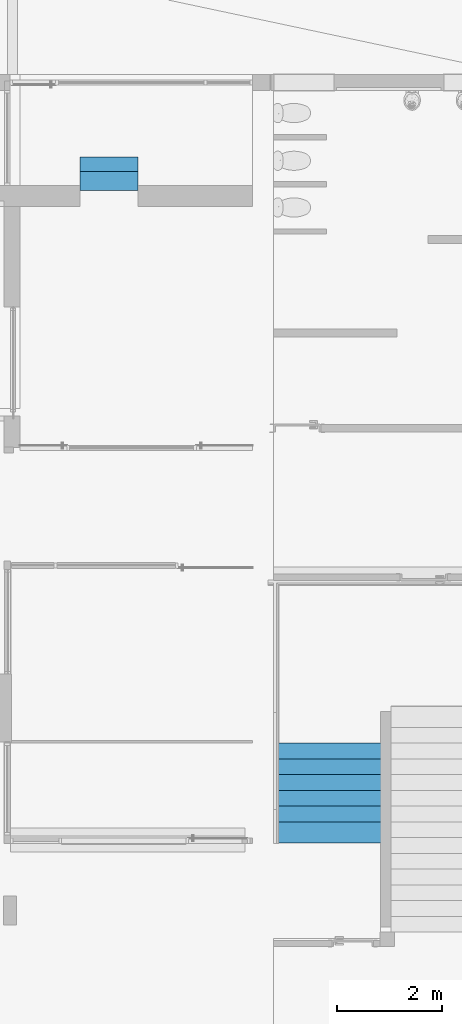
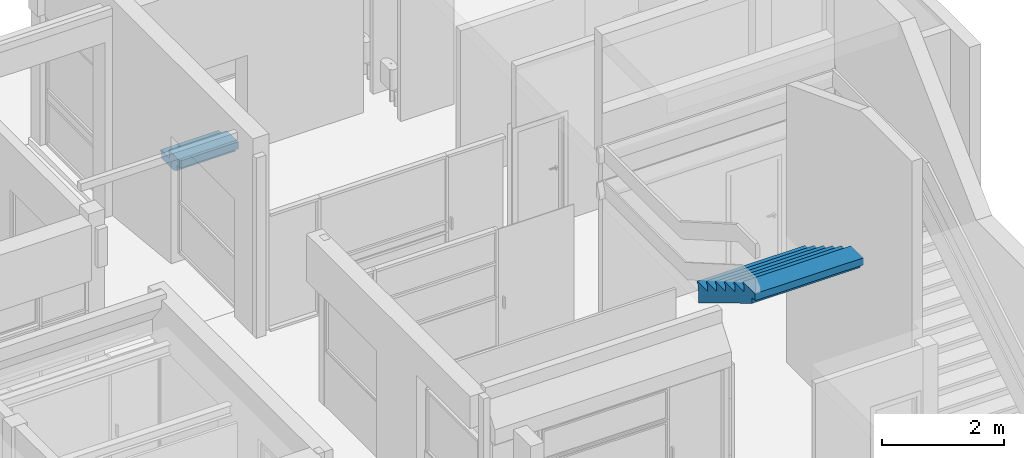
# One storey, part 100 of 117: 2 stair flights, 2 elements without a shape of their own.
"""IFC4 building model written with IfcOpenShell, lengths in metres."""

from ifc_helpers import new_model, entity, si_unit, converted_unit, derived_unit, direction, frame, origin, place, context, subcontext, project, spatial, polygons, material, constituent, constituent_set, type_object, element, aggregate, save


model = new_model("IFC4")

# Units and contexts
model_context = context("Model", 3, precision=1e-05, world=origin(), true_north=direction((6.123031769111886e-17, 1.0)))
body_context = subcontext(model_context, "Body", "Model", "MODEL_VIEW")
ifc_project = project(units=[si_unit("LENGTHUNIT", "METRE"), si_unit("AREAUNIT", "SQUARE_METRE"), si_unit("VOLUMEUNIT", "CUBIC_METRE"), converted_unit("PLANEANGLEUNIT", "DEGREE", entity("IfcRatioMeasure", 0.017453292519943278), si_unit("PLANEANGLEUNIT", "RADIAN"), dimensions=[0, 0, 0, 0, 0, 0, 0]), si_unit("MASSUNIT", "GRAM", prefix="KILO"), derived_unit("MASSDENSITYUNIT", [(si_unit("MASSUNIT", "GRAM", prefix="KILO"), 1), (si_unit("LENGTHUNIT", "METRE"), -3)]), derived_unit("MOMENTOFINERTIAUNIT", [(si_unit("LENGTHUNIT", "METRE"), 4)]), si_unit("TIMEUNIT", "SECOND"), si_unit("FREQUENCYUNIT", "HERTZ"), si_unit("THERMODYNAMICTEMPERATUREUNIT", "DEGREE_CELSIUS"), derived_unit("THERMALTRANSMITTANCEUNIT", [(si_unit("MASSUNIT", "GRAM", prefix="KILO"), 1), (si_unit("THERMODYNAMICTEMPERATUREUNIT", "KELVIN"), -1), (si_unit("TIMEUNIT", "SECOND"), -3)]), derived_unit("VOLUMETRICFLOWRATEUNIT", [(si_unit("LENGTHUNIT", "METRE"), 3), (si_unit("TIMEUNIT", "SECOND"), -1)]), derived_unit("MASSFLOWRATEUNIT", [(si_unit("MASSUNIT", "GRAM", prefix="KILO"), 1), (si_unit("TIMEUNIT", "SECOND"), -1)]), derived_unit("ROTATIONALFREQUENCYUNIT", [(si_unit("TIMEUNIT", "SECOND"), -1)]), si_unit("ELECTRICCURRENTUNIT", "AMPERE"), si_unit("ELECTRICVOLTAGEUNIT", "VOLT"), si_unit("POWERUNIT", "WATT"), si_unit("FORCEUNIT", "NEWTON", prefix="KILO"), si_unit("ILLUMINANCEUNIT", "LUX"), si_unit("LUMINOUSFLUXUNIT", "LUMEN"), si_unit("LUMINOUSINTENSITYUNIT", "CANDELA"), derived_unit("USERDEFINED", [(si_unit("MASSUNIT", "GRAM", prefix="KILO"), -1), (si_unit("LENGTHUNIT", "METRE"), -2), (si_unit("TIMEUNIT", "SECOND"), 3), (si_unit("LUMINOUSFLUXUNIT", "LUMEN"), 1)]), derived_unit("SOUNDPOWERUNIT", [(si_unit("MASSUNIT", "GRAM", prefix="KILO"), 1), (si_unit("LENGTHUNIT", "METRE"), 2), (si_unit("TIMEUNIT", "SECOND"), -3)]), derived_unit("SOUNDPRESSUREUNIT", [(si_unit("MASSUNIT", "GRAM", prefix="KILO"), 1), (si_unit("LENGTHUNIT", "METRE"), -1), (si_unit("TIMEUNIT", "SECOND"), -2)]), derived_unit("LINEARVELOCITYUNIT", [(si_unit("LENGTHUNIT", "METRE"), 1), (si_unit("TIMEUNIT", "SECOND"), -1)]), si_unit("PRESSUREUNIT", "PASCAL"), derived_unit("USERDEFINED", [(si_unit("LENGTHUNIT", "METRE"), -2), (si_unit("MASSUNIT", "GRAM", prefix="KILO"), 1), (si_unit("TIMEUNIT", "SECOND"), -2)]), derived_unit("LINEARFORCEUNIT", [(si_unit("MASSUNIT", "GRAM", prefix="KILO"), 1), (si_unit("LENGTHUNIT", "METRE"), 1), (si_unit("TIMEUNIT", "SECOND"), -2), (si_unit("LENGTHUNIT", "METRE"), -1)]), derived_unit("PLANARFORCEUNIT", [(si_unit("MASSUNIT", "GRAM", prefix="KILO"), 1), (si_unit("LENGTHUNIT", "METRE"), 1), (si_unit("TIMEUNIT", "SECOND"), -2), (si_unit("LENGTHUNIT", "METRE"), -2)])], contexts=[model_context])

# Site, building, storey
site_placement = place(None, origin())
site = spatial("IfcSite", under=ifc_project, at=site_placement, Name="Superficie", CompositionType="ELEMENT")
building_placement = place(site_placement, origin())
building = spatial("IfcBuilding", under=site, at=building_placement, CompositionType="ELEMENT")
storey_placement = place(building_placement, origin())
storey = spatial("IfcBuildingStorey", under=building, at=storey_placement, Name="Nivel 0", CompositionType="ELEMENT", Elevation=0.0)

# Stair, stair flight
stair_type_1 = type_object("IfcStairType", Name="Escalera prefabricada:Escalera prefabricada", PredefinedType="HALF_TURN_STAIR")
stair_1_placement = place(storey_placement, origin())
stair_1 = element("IfcStair", 1, at=stair_1_placement, inside=storey, type_object=stair_type_1, Name="Escalera prefabricada:Escalera", ObjectType="Escalera prefabricada:Escalera prefabricada", PredefinedType="HALF_TURN_STAIR")
ifc_material_1 = material(Name="Cerámica blanca", Category="Cerámica")
ifc_constituent_1 = constituent(ifc_material_1, Name="Cerámica blanca", Category="Cerámica")
ifc_material_2 = material(Name="Hormigón", Category="Hormigón")
ifc_constituent_2 = constituent(ifc_material_2, Name="Hormigón", Category="Hormigón")
ifc_constituent_set_1 = constituent_set(constituents=[ifc_constituent_1, ifc_constituent_2], Name="MaterialConstituentSet")
stair_flight_type_1 = type_object("IfcStairFlightType", Name="Tramo monolítico:Huella 40 mm Mamperlán 30 mm Contrahuella 15 mm", PredefinedType="STRAIGHT")
stair_flight_1_placement = place(stair_1_placement, frame((20.986799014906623, -1.7641708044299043, 0.0)))
stair_flight_1 = element("IfcStairFlight", 2, at=stair_flight_1_placement, type_object=stair_flight_type_1, material=ifc_constituent_set_1, Name="Escalera prefabricada:Escalera:227558 Run 2", ObjectType="Tramo monolítico:Huella 40 mm Mamperlán 30 mm Contrahuella 15 mm", PredefinedType="STRAIGHT", context=body_context, shape_type="Tessellation", body=[
    polygons([(4.331468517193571e-15, 1.8999999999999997, 2.6500000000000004), (4.331468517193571e-15, 1.8999999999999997, 2.7), (2.045000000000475, 1.8999999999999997, 2.7), (2.045000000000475, 1.8999999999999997, 2.6500000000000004), (4.331468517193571e-15, 1.8769999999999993, 2.6500000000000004), (2.045000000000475, 1.8769999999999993, 2.6500000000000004), (4.331468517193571e-15, 1.8769999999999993, 2.66), (2.045000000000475, 1.8769999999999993, 2.66), (4.331468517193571e-15, 1.5549999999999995, 2.7), (2.045000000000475, 1.5549999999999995, 2.7), (2.045000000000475, 1.5549999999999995, 2.66), (4.331468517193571e-15, 1.5549999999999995, 2.66)], [[[1, 2, 3, 4]], [[5, 1, 4, 6]], [[7, 5, 6, 8]], [[3, 2, 9, 10]], [[11, 12, 7, 8]], [[3, 10, 11, 8, 6, 4]], [[9, 2, 1, 5, 7, 12]], [[10, 9, 12, 11]]], closed=True),
    polygons([(4.331468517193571e-15, 1.8699999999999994, 2.66), (4.331468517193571e-15, 1.8699999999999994, 2.52), (4.331468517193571e-15, 1.8549999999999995, 2.52), (4.331468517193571e-15, 1.8549999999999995, 2.66), (2.045000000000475, 1.8699999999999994, 2.66), (2.045000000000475, 1.8549999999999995, 2.66), (2.045000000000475, 1.8549999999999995, 2.52), (2.045000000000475, 1.8699999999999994, 2.52)], [[[1, 2, 3, 4]], [[5, 6, 7, 8]], [[2, 1, 5, 8]], [[3, 2, 8, 7]], [[4, 3, 7, 6]], [[1, 4, 6, 5]]], closed=True),
    polygons([(4.331468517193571e-15, 1.5699999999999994, 2.84), (4.331468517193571e-15, 1.5699999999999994, 2.6999999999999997), (4.331468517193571e-15, 1.5549999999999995, 2.6999999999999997), (4.331468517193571e-15, 1.5549999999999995, 2.84), (2.045000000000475, 1.5699999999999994, 2.84), (2.045000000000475, 1.5549999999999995, 2.84), (2.045000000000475, 1.5549999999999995, 2.6999999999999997), (2.045000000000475, 1.5699999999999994, 2.6999999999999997)], [[[1, 2, 3, 4]], [[5, 6, 7, 8]], [[2, 1, 5, 8]], [[3, 2, 8, 7]], [[4, 3, 7, 6]], [[1, 4, 6, 5]]], closed=True),
    polygons([(2.045000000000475, 1.5999999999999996, 2.88), (4.331468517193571e-15, 1.5999999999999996, 2.88), (4.331468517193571e-15, 1.2549999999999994, 2.88), (2.045000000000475, 1.2549999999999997, 2.88), (2.045000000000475, 1.2549999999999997, 2.84), (4.331468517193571e-15, 1.2549999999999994, 2.84), (4.331468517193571e-15, 1.5769999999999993, 2.84), (2.045000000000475, 1.5769999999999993, 2.84), (2.045000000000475, 1.5769999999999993, 2.83), (2.045000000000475, 1.5999999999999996, 2.83), (4.331468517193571e-15, 1.5999999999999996, 2.83), (4.331468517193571e-15, 1.5769999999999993, 2.83)], [[[1, 2, 3, 4]], [[5, 6, 7, 8]], [[1, 4, 5, 8, 9, 10]], [[3, 2, 11, 12, 7, 6]], [[4, 3, 6, 5]], [[11, 2, 1, 10]], [[12, 11, 10, 9]], [[7, 12, 9, 8]]], closed=True),
    polygons([(0.0, 1.2699999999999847, 3.02), (0.0, 1.2699999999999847, 2.88), (0.0, 1.2549999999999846, 2.88), (0.0, 1.2549999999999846, 3.02), (2.0450000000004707, 1.2699999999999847, 3.02), (2.0450000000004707, 1.2549999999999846, 3.02), (2.0450000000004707, 1.2549999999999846, 2.88), (2.0450000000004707, 1.2699999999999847, 2.88)], [[[1, 2, 3, 4]], [[5, 6, 7, 8]], [[2, 1, 5, 8]], [[3, 2, 8, 7]], [[4, 3, 7, 6]], [[1, 4, 6, 5]]], closed=True),
    polygons([(2.0450000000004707, 1.2999999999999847, 3.06), (0.0, 1.2999999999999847, 3.06), (0.0, 0.9549999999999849, 3.06), (2.0450000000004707, 0.9549999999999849, 3.06), (2.0450000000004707, 0.9549999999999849, 3.02), (0.0, 0.9549999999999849, 3.02), (0.0, 1.2769999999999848, 3.02), (2.0450000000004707, 1.2769999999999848, 3.02), (2.0450000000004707, 1.2769999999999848, 3.0100000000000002), (2.0450000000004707, 1.2999999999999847, 3.0100000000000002), (0.0, 1.2999999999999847, 3.0100000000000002), (0.0, 1.2769999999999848, 3.0100000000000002)], [[[1, 2, 3, 4]], [[5, 6, 7, 8]], [[1, 4, 5, 8, 9, 10]], [[3, 2, 11, 12, 7, 6]], [[4, 3, 6, 5]], [[11, 2, 1, 10]], [[12, 11, 10, 9]], [[7, 12, 9, 8]]], closed=True),
    polygons([(0.0, 0.9699999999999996, 3.1999999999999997), (0.0, 0.9699999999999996, 3.0599999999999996), (0.0, 0.9549999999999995, 3.0599999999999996), (0.0, 0.9549999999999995, 3.1999999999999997), (2.0450000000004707, 0.9699999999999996, 3.1999999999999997), (2.0450000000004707, 0.9549999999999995, 3.1999999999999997), (2.0450000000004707, 0.9549999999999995, 3.0599999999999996), (2.0450000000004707, 0.9699999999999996, 3.0599999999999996)], [[[1, 2, 3, 4]], [[5, 6, 7, 8]], [[2, 1, 5, 8]], [[3, 2, 8, 7]], [[4, 3, 7, 6]], [[1, 4, 6, 5]]], closed=True),
    polygons([(2.0450000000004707, 0.9999999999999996, 3.2399999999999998), (0.0, 0.9999999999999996, 3.2399999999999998), (0.0, 0.6549999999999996, 3.2399999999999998), (2.0450000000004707, 0.6549999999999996, 3.2399999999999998), (2.0450000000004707, 0.6549999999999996, 3.1999999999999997), (0.0, 0.6549999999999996, 3.1999999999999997), (0.0, 0.9769999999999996, 3.1999999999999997), (2.0450000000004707, 0.9769999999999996, 3.1999999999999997), (2.0450000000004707, 0.9769999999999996, 3.19), (2.0450000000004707, 0.9999999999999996, 3.19), (0.0, 0.9999999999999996, 3.19), (0.0, 0.9769999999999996, 3.19)], [[[1, 2, 3, 4]], [[5, 6, 7, 8]], [[1, 4, 5, 8, 9, 10]], [[3, 2, 11, 12, 7, 6]], [[4, 3, 6, 5]], [[11, 2, 1, 10]], [[12, 11, 10, 9]], [[7, 12, 9, 8]]], closed=True),
    polygons([(0.0, 0.6699999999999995, 3.38), (0.0, 0.6699999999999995, 3.2399999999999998), (0.0, 0.6549999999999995, 3.2399999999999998), (0.0, 0.6549999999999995, 3.38), (2.0450000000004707, 0.6699999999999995, 3.38), (2.0450000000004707, 0.6549999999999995, 3.38), (2.0450000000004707, 0.6549999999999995, 3.2399999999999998), (2.0450000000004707, 0.6699999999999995, 3.2399999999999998)], [[[1, 2, 3, 4]], [[5, 6, 7, 8]], [[2, 1, 5, 8]], [[3, 2, 8, 7]], [[4, 3, 7, 6]], [[1, 4, 6, 5]]], closed=True),
    polygons([(2.0450000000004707, 0.6999999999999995, 3.42), (0.0, 0.6999999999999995, 3.42), (0.0, 0.3549999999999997, 3.42), (2.0450000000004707, 0.3549999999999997, 3.42), (2.0450000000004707, 0.3549999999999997, 3.38), (0.0, 0.3549999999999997, 3.38), (0.0, 0.6769999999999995, 3.38), (2.0450000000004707, 0.6769999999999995, 3.38), (2.0450000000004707, 0.6769999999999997, 3.37), (2.0450000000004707, 0.6999999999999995, 3.37), (0.0, 0.6999999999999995, 3.37), (0.0, 0.6769999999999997, 3.37)], [[[1, 2, 3, 4]], [[5, 6, 7, 8]], [[1, 4, 5, 8, 9, 10]], [[3, 2, 11, 12, 7, 6]], [[4, 3, 6, 5]], [[11, 2, 1, 10]], [[12, 11, 10, 9]], [[7, 12, 9, 8]]], closed=True),
    polygons([(0.0, 0.36999999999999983, 3.56), (0.0, 0.36999999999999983, 3.42), (0.0, 0.3549999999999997, 3.42), (0.0, 0.3549999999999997, 3.56), (2.0450000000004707, 0.36999999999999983, 3.56), (2.0450000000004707, 0.3549999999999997, 3.56), (2.0450000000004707, 0.3549999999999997, 3.42), (2.0450000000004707, 0.36999999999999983, 3.42)], [[[1, 2, 3, 4]], [[5, 6, 7, 8]], [[2, 1, 5, 8]], [[3, 2, 8, 7]], [[4, 3, 7, 6]], [[1, 4, 6, 5]]], closed=True),
    polygons([(2.0450000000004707, 0.39999999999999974, 3.6), (0.0, 0.39999999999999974, 3.6), (0.0, -2.707167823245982e-16, 3.6), (2.0450000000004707, -2.707167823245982e-16, 3.6), (2.0450000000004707, -2.707167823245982e-16, 3.56), (0.0, -2.707167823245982e-16, 3.56), (0.0, 0.37699999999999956, 3.56), (2.0450000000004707, 0.37699999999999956, 3.56), (2.0450000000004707, 0.37699999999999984, 3.5500000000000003), (2.0450000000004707, 0.39999999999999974, 3.5500000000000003), (0.0, 0.39999999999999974, 3.5500000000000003), (0.0, 0.37699999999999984, 3.5500000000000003)], [[[1, 2, 3, 4]], [[5, 6, 7, 8]], [[1, 4, 5, 8, 9, 10]], [[3, 2, 11, 12, 7, 6]], [[4, 3, 6, 5]], [[11, 2, 1, 10]], [[12, 11, 10, 9]], [[7, 12, 9, 8]]], closed=True),
    polygons([(2.045000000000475, 1.5549999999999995, 2.66), (2.045000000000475, 1.8549999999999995, 2.66), (4.331468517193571e-15, 1.8549999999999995, 2.66), (4.331468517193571e-15, 1.5549999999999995, 2.66), (2.045000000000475, 1.5549999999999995, 2.4734095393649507), (2.045000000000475, 1.8549999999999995, 2.2934095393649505), (4.331468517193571e-15, 1.8549999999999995, 2.2934095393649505), (4.331468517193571e-15, 1.5549999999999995, 2.4734095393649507), (2.045000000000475, 1.2549999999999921, 2.84), (2.045000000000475, 1.5549999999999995, 2.84), (4.331468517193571e-15, 1.5549999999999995, 2.84), (4.331468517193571e-15, 1.2549999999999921, 2.84), (2.0450000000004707, 1.2549999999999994, 2.653409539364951), (0.0, 1.2549999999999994, 2.653409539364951), (2.0450000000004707, 0.9549999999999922, 3.02), (2.0450000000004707, 1.2549999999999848, 3.02), (0.0, 1.2549999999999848, 3.02), (0.0, 0.9549999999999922, 3.02), (2.0450000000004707, 0.9549999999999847, 2.8334095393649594), (0.0, 0.9549999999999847, 2.8334095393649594), (2.0450000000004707, 0.6549999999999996, 3.1999999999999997), (2.0450000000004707, 0.9549999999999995, 3.1999999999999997), (0.0, 0.9549999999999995, 3.1999999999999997), (0.0, 0.6549999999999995, 3.1999999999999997), (2.0450000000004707, 0.6549999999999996, 3.0134095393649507), (0.0, 0.6549999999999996, 3.0134095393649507), (2.0450000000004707, 0.3549999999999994, 3.38), (2.0450000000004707, 0.6549999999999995, 3.38), (0.0, 0.6549999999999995, 3.38), (0.0, 0.3549999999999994, 3.38), (2.0450000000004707, 0.35499999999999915, 3.193409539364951), (0.0, 0.35499999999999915, 3.193409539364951), (2.0450000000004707, 0.3549999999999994, 3.56), (0.0, 0.3549999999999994, 3.56), (0.0, -2.707167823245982e-16, 3.56), (2.0450000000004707, -2.707167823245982e-16, 3.56), (2.0450000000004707, -2.707167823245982e-16, 3.46), (2.0450000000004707, 0.10000000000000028, 3.46), (2.0450000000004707, 0.10000000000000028, 3.346409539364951), (0.0, 0.10000000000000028, 3.346409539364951), (0.0, 0.10000000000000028, 3.46), (0.0, -2.707167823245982e-16, 3.46)], [[[1, 2, 3, 4]], [[2, 1, 5, 6]], [[3, 2, 6, 7]], [[4, 3, 7, 8]], [[9, 10, 11, 12]], [[10, 9, 13, 5, 1]], [[11, 10, 1, 4]], [[12, 11, 4, 8, 14]], [[15, 16, 17, 18]], [[16, 15, 19, 13, 9]], [[17, 16, 9, 12]], [[18, 17, 12, 14, 20]], [[21, 22, 23, 24]], [[22, 21, 25, 19, 15]], [[23, 22, 15, 18]], [[24, 23, 18, 20, 26]], [[27, 28, 29, 30]], [[28, 27, 31, 25, 21]], [[29, 28, 21, 24]], [[30, 29, 24, 26, 32]], [[33, 34, 35, 36]], [[33, 36, 37, 38, 39, 31, 27]], [[34, 33, 27, 30]], [[35, 34, 30, 32, 40, 41, 42]], [[40, 39, 38, 41]], [[6, 5, 13, 19, 25, 31, 39, 40, 32, 26, 20, 14, 8, 7]], [[42, 41, 38, 37]], [[42, 37, 36, 35]]], closed=True),
])
aggregate(stair_1, [stair_flight_1])

stair_type_2 = type_object("IfcStairType", Name="Escalera prefabricada:Escalera prefabricada", PredefinedType="STRAIGHT_RUN_STAIR")
stair_2_placement = place(storey_placement, origin())
stair_2 = element("IfcStair", 3, at=stair_2_placement, inside=storey, type_object=stair_type_2, Name="Escalera prefabricada:Escalera", ObjectType="Escalera prefabricada:Escalera prefabricada", PredefinedType="STRAIGHT_RUN_STAIR")
ifc_constituent_3 = constituent(ifc_material_1, Name="Cerámica blanca", Category="Cerámica")
ifc_constituent_4 = constituent(ifc_material_2, Name="Hormigón", Category="Hormigón")
ifc_constituent_set_2 = constituent_set(constituents=[ifc_constituent_3, ifc_constituent_4], Name="MaterialConstituentSet")
stair_flight_type_2 = type_object("IfcStairFlightType", Name="Tramo monolítico:Huella 40 mm Mamperlán 30 mm Contrahuella 15 mm", PredefinedType="STRAIGHT")
stair_flight_2_placement = place(stair_2_placement, frame((17.29679901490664, 10.670829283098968, 0.0)))
stair_flight_2 = element("IfcStairFlight", 4, at=stair_flight_2_placement, type_object=stair_flight_type_2, material=ifc_constituent_set_2, Name="Escalera prefabricada:Escalera:530396 Run 1", ObjectType="Tramo monolítico:Huella 40 mm Mamperlán 30 mm Contrahuella 15 mm", PredefinedType="STRAIGHT", context=body_context, shape_type="Tessellation", body=[
    polygons([(-2.1657342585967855e-15, 0.6400000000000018, -0.205), (-2.1657342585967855e-15, 0.6400000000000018, -0.155), (1.1000000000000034, 0.6400000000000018, -0.155), (1.1000000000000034, 0.6400000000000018, -0.205), (-2.1657342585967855e-15, 0.6170000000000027, -0.205), (1.1000000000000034, 0.6170000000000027, -0.205), (-2.1657342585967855e-15, 0.6170000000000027, -0.195), (1.1000000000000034, 0.6170000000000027, -0.195), (-2.1657342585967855e-15, 0.3250000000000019, -0.155), (1.1000000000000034, 0.3250000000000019, -0.155), (1.1000000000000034, 0.3250000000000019, -0.195), (-2.1657342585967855e-15, 0.3250000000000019, -0.195)], [[[1, 2, 3, 4]], [[5, 1, 4, 6]], [[7, 5, 6, 8]], [[3, 2, 9, 10]], [[11, 12, 7, 8]], [[3, 10, 11, 8, 6, 4]], [[9, 2, 1, 5, 7, 12]], [[10, 9, 12, 11]]], closed=True),
    polygons([(-2.1657342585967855e-15, 0.6100000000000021, -0.195), (-2.1657342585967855e-15, 0.6100000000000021, -0.31), (-2.1657342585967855e-15, 0.5950000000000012, -0.31), (-2.1657342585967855e-15, 0.5950000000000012, -0.195), (1.1000000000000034, 0.6100000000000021, -0.195), (1.1000000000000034, 0.5950000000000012, -0.195), (1.1000000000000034, 0.5950000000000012, -0.31), (1.1000000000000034, 0.6100000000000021, -0.31)], [[[1, 2, 3, 4]], [[5, 6, 7, 8]], [[2, 1, 5, 8]], [[3, 2, 8, 7]], [[4, 3, 7, 6]], [[1, 4, 6, 5]]], closed=True),
    polygons([(-2.1657342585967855e-15, 0.34000000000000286, -0.04000000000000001), (-2.1657342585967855e-15, 0.34000000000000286, -0.155), (-2.1657342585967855e-15, 0.3250000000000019, -0.155), (-2.1657342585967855e-15, 0.3250000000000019, -0.04), (1.1000000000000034, 0.34000000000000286, -0.04000000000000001), (1.1000000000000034, 0.3250000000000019, -0.04), (1.1000000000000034, 0.3250000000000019, -0.155), (1.1000000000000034, 0.34000000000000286, -0.155)], [[[1, 2, 3, 4]], [[5, 6, 7, 8]], [[2, 1, 5, 8]], [[3, 2, 8, 7]], [[4, 3, 7, 6]], [[1, 4, 6, 5]]], closed=True),
    polygons([(1.1000000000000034, 0.3700000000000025, -2.8330763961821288e-18), (-2.1657342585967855e-15, 0.3700000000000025, -1.9664870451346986e-20), (-2.1657342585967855e-15, 0.0, -8.459899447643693e-18), (1.1000000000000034, 0.0, -8.459899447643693e-18), (1.1000000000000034, 0.0, -0.04000000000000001), (-2.1657342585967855e-15, 0.0, -0.04000000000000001), (-2.1657342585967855e-15, 0.3470000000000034, -0.04000000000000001), (1.1000000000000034, 0.3470000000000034, -0.04), (1.1000000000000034, 0.3470000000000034, -0.05), (1.1000000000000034, 0.3700000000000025, -0.05), (-2.1657342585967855e-15, 0.3700000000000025, -0.05), (-2.1657342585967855e-15, 0.3470000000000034, -0.05)], [[[1, 2, 3, 4]], [[5, 6, 7, 8]], [[1, 4, 5, 8, 9, 10]], [[3, 2, 11, 12, 7, 6]], [[4, 3, 6, 5]], [[11, 2, 1, 10]], [[12, 11, 10, 9]], [[7, 12, 9, 8]]], closed=True),
    polygons([(1.1000000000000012, 0.3250000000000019, -0.19499999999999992), (1.1000000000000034, 0.5950000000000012, -0.19499999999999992), (-2.1657342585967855e-15, 0.5950000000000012, -0.19499999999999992), (0.0, 0.3250000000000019, -0.19499999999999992), (1.1000000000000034, 0.3250000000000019, -0.31), (1.1000000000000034, 0.5950000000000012, -0.31), (-2.1657342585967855e-15, 0.5950000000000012, -0.31), (-2.1657342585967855e-15, 0.3250000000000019, -0.31), (1.1000000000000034, 0.3250000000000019, -0.03999999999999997), (-2.1657342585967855e-15, 0.3250000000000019, -0.03999999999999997), (-2.1657342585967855e-15, 0.0, -0.03999999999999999), (1.1000000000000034, 0.0, -0.03999999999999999), (1.1000000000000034, 0.0, -0.14000000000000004), (1.1000000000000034, 0.10000000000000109, -0.14000000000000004), (1.1000000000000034, 0.10000000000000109, -0.250323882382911), (1.1000000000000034, 0.20395194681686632, -0.31000000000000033), (-2.1657342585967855e-15, 0.20395194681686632, -0.3100000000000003), (-2.1657342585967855e-15, 0.10000000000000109, -0.2503238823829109), (-2.1657342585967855e-15, 0.10000000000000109, -0.14000000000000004), (-2.1657342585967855e-15, 0.0, -0.14000000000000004)], [[[1, 2, 3, 4]], [[2, 1, 5, 6]], [[3, 2, 6, 7]], [[4, 3, 7, 8]], [[9, 10, 11, 12]], [[5, 1, 9, 12, 13, 14, 15, 16]], [[1, 4, 10, 9]], [[4, 8, 17, 18, 19, 20, 11, 10]], [[18, 15, 14, 19]], [[6, 5, 16, 17, 8, 7]], [[17, 16, 15, 18]], [[20, 19, 14, 13]], [[20, 13, 12, 11]]], closed=True),
])
aggregate(stair_2, [stair_flight_2])

save(model, "model.ifc")
